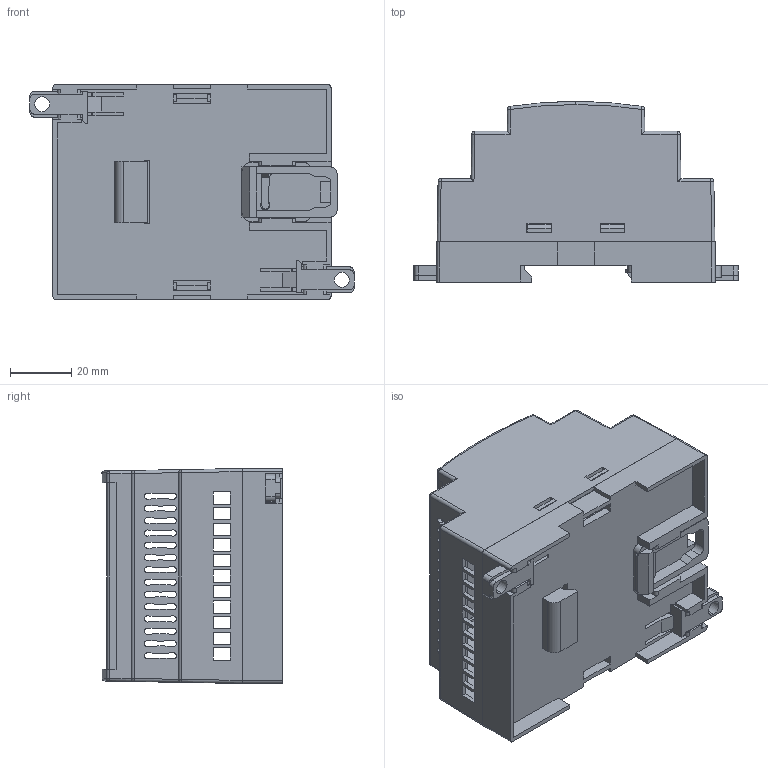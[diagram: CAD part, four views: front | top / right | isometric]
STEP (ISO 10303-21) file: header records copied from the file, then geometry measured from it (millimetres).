
FILE_DESCRIPTION (( 'STEP AP203' ), '1' );
FILE_NAME ('PT204-C.STEP', '2016-09-08T10:57:24', ( '' ), ( '' ), 'SwSTEP 2.0', 'SolidWorks 2015', '' );
FILE_SCHEMA (( 'CONFIG_CONTROL_DESIGN' ));
Length unit declared in the file: millimetre
Products named in the file (6): PT204-C
Assembly tree (6 placements, depth 2):
  PT204-C
    PT204-C
    PT204-C
    PT204-C  x2
    PT204-C
    PT204-C
Bounding box: 105.52 x 58.8 x 70.2 mm (x, y, z)
Volume: 55319 mm3; surface area: 63348 mm2
Topology: 6 solids, 6 shells, 909 faces, 2639 edges, 1734 vertices
Faces by surface type: plane 473, cylinder 421, sphere 12, bspline 3
Entity records: 29859 total; most frequent: CARTESIAN_POINT 6795, ORIENTED_EDGE 5142, DIRECTION 4132, EDGE_CURVE 2571, LINE 1730, VECTOR 1730, VERTEX_POINT 1694, AXIS2_PLACEMENT_3D 1201
